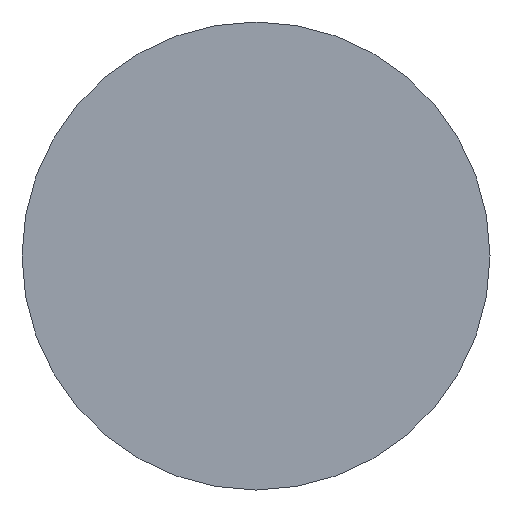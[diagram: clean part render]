
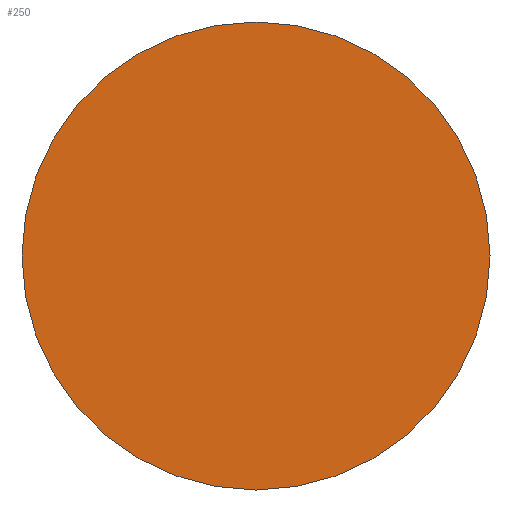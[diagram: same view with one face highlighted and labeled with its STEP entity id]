
A CAD part, left-side view. The second image highlights one B-rep face of the part: STEP entity #250.
In plain terms, the highlighted planar face has unit normal (-1, 0, 0).
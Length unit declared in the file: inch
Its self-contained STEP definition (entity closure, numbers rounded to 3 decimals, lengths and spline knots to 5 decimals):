
#10 = AXIS2_PLACEMENT_3D ( 'NONE', #82, #192, #231 ) ;
#16 = VERTEX_POINT ( 'NONE', #257 ) ;
#22 = ORIENTED_EDGE ( 'NONE', *, *, #172, .F. ) ;
#30 = VERTEX_POINT ( 'NONE', #136 ) ;
#50 = DIRECTION ( 'NONE',  ( 0., 0., -1. ) ) ;
#82 = CARTESIAN_POINT ( 'NONE',  ( 0., 0., 0. ) ) ;
#95 = CARTESIAN_POINT ( 'NONE',  ( 0., 0., 0. ) ) ;
#103 = EDGE_CURVE ( 'NONE', #30, #16, #152, .T. ) ;
#109 = FACE_OUTER_BOUND ( 'NONE', #163, .T. ) ;
#122 = AXIS2_PLACEMENT_3D ( 'NONE', #151, #180, #137 ) ;
#136 = CARTESIAN_POINT ( 'NONE',  ( 0., 0., -7.87402 ) ) ;
#137 = DIRECTION ( 'NONE',  ( 0., 0., -1. ) ) ;
#151 = CARTESIAN_POINT ( 'NONE',  ( 0., 0., 0. ) ) ;
#152 = CIRCLE ( 'NONE', #191, 7.87402 ) ;
#163 = EDGE_LOOP ( 'NONE', ( #22, #248 ) ) ;
#166 = PLANE ( 'NONE',  #10 ) ;
#172 = EDGE_CURVE ( 'NONE', #16, #30, #178, .T. ) ;
#178 = CIRCLE ( 'NONE', #122, 7.87402 ) ;
#180 = DIRECTION ( 'NONE',  ( 1., 0., 0. ) ) ;
#191 = AXIS2_PLACEMENT_3D ( 'NONE', #95, #241, #50 ) ;
#192 = DIRECTION ( 'NONE',  ( 1., 0., 0. ) ) ;
#231 = DIRECTION ( 'NONE',  ( 0., 0., -1. ) ) ;
#241 = DIRECTION ( 'NONE',  ( 1., 0., 0. ) ) ;
#248 = ORIENTED_EDGE ( 'NONE', *, *, #103, .F. ) ;
#250 = ADVANCED_FACE ( 'NONE', ( #109 ), #166, .F. ) ;
#257 = CARTESIAN_POINT ( 'NONE',  ( 0., 0., 7.87402 ) ) ;
